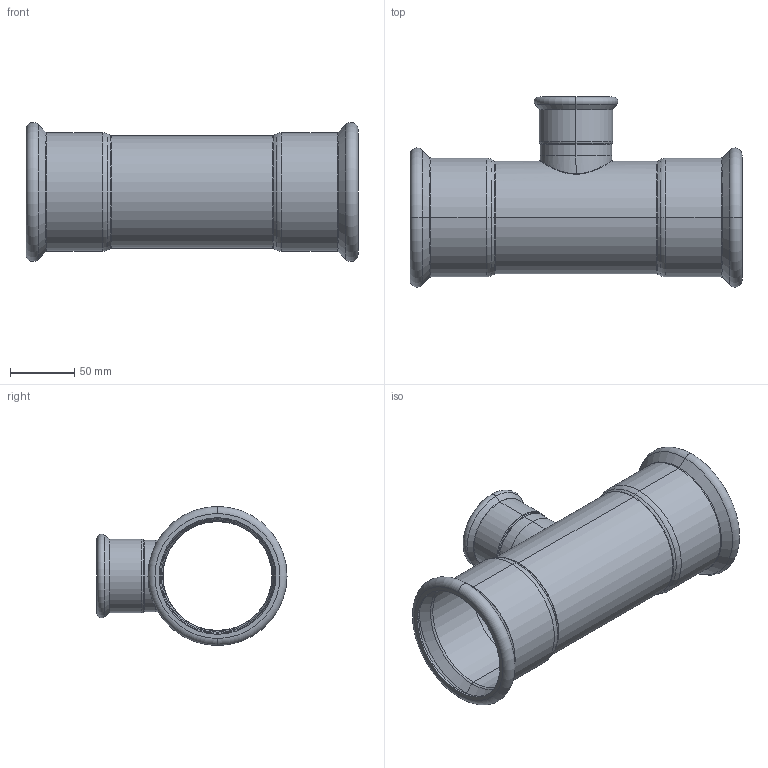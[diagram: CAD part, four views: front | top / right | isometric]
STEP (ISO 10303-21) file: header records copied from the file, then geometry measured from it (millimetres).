
FILE_DESCRIPTION (( 'STEP AP203' ), '1' );
FILE_NAME ('GDA5221.STEP', '2019-01-12T06:23:15', ( '' ), ( '' ), 'SwSTEP 2.0', 'SolidWorks 2015', '' );
FILE_SCHEMA (( 'CONFIG_CONTROL_DESIGN' ));
Length unit declared in the file: millimetre
Products named in the file (3): T-ｉ-01-54; T(R)-¢ñ-88.9¡Á54''; GDA5221
Assembly tree (2 placements, depth 2):
  GDA5221
    T(R)-¢ñ-88.9¡Á54''
    T-ｉ-01-54
Bounding box: 259 x 148.24 x 108.48 mm (x, y, z)
Volume: 130628.6 mm3; surface area: 174828.5 mm2
Topology: 2 solids, 2 shells, 114 faces, 234 edges, 128 vertices
Faces by surface type: torus 48, cylinder 30, cone 24, plane 8, bspline 4
Entity records: 4609 total; most frequent: CARTESIAN_POINT 1819, DIRECTION 620, ORIENTED_EDGE 468, AXIS2_PLACEMENT_3D 283, EDGE_CURVE 234, CIRCLE 168, VERTEX_POINT 128, EDGE_LOOP 124
